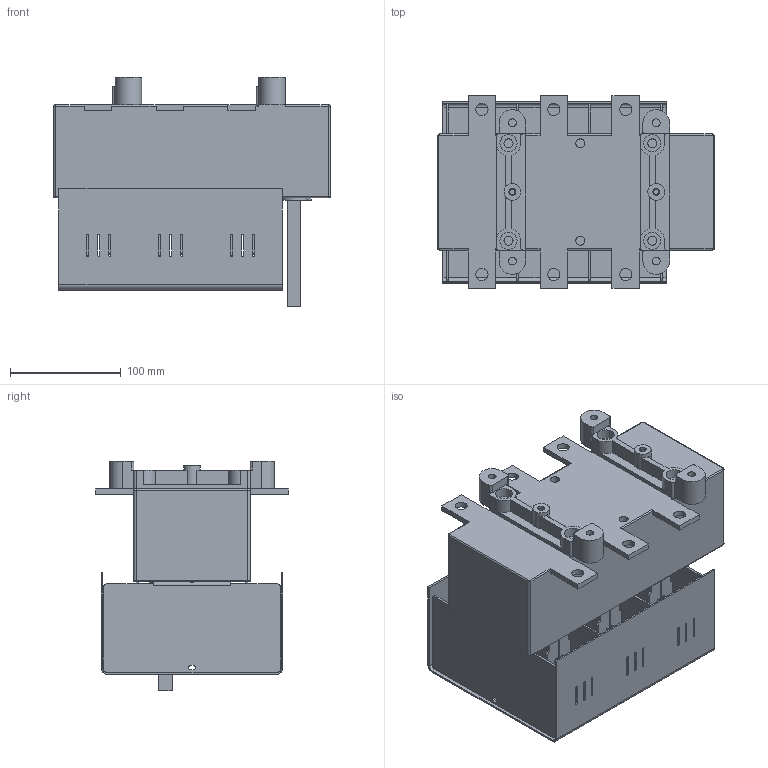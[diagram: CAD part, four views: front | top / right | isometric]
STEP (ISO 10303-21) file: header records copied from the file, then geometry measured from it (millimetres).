
FILE_DESCRIPTION(/* description */ (''),/* implementation_level */ '2;1');
FILE_NAME(/* name */ 'RAB 2 P3.stp',/* time_stamp */ '2021-08-19T13:11:36+02:00',/* author */ (''),/* organization */ (''),/* preprocessor_version */ 'ST-DEVELOPER v18.1',/* originating_system */ 'SIEMENS PLM Software NX 1965',/* authorisation */ '');
FILE_SCHEMA (('AUTOMOTIVE_DESIGN { 1 0 10303 214 3 1 1 1 }'));
Length unit declared in the file: millimetre
Products named in the file (1): RAB 2 P3
Bounding box: 250 x 174 x 207.3 mm (x, y, z)
Volume: 2489805.4 mm3; surface area: 430981 mm2
Topology: 1 solids, 1 shells, 968 faces, 2702 edges, 1771 vertices
Faces by surface type: plane 628, cylinder 332, bspline 8
Full cylindrical faces by diameter (mm): 4.8 x2, 6.2 x2, 7 x4, 8.2 x6, 11 x6, 14 x4, 15 x2, 15.5 x4
Entity records: 31174 total; most frequent: CARTESIAN_POINT 5562, ORIENTED_EDGE 5324, DIRECTION 5268, EDGE_CURVE 2662, LINE 1966, VECTOR 1966, VERTEX_POINT 1758, AXIS2_PLACEMENT_3D 1651
